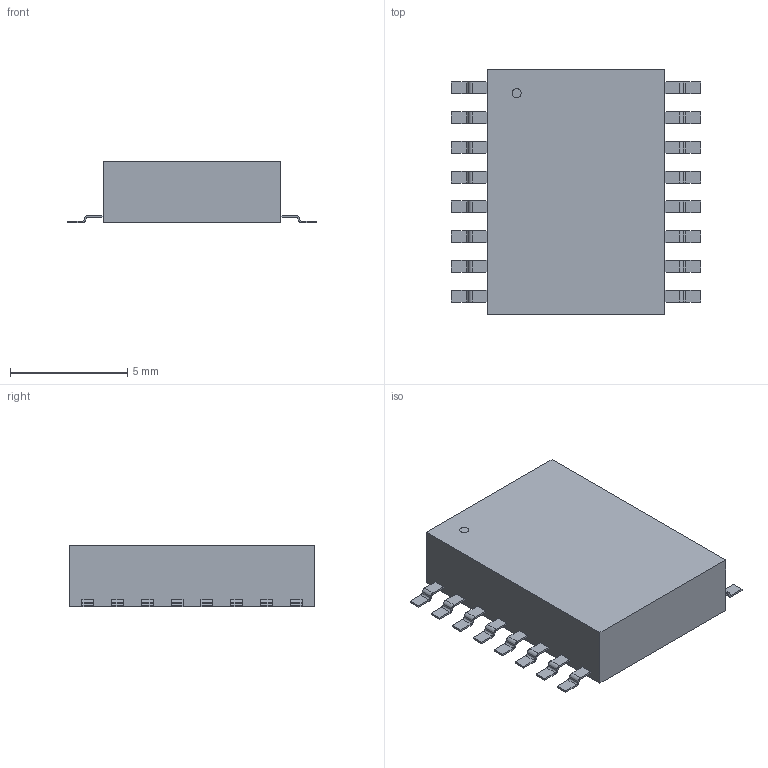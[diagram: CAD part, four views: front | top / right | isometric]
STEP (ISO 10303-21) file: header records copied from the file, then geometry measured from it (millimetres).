
FILE_DESCRIPTION(('STEP AP214'),'1');
FILE_NAME('DW16','2025-07-21T04:58:43',(''),(''),'','','');
FILE_SCHEMA(('AUTOMOTIVE_DESIGN'));
Length unit declared in the file: millimetre
Products named in the file (1): product
Bounding box: 10.64 x 10.49 x 2.64 mm (x, y, z)
Volume: 211.5 mm3; surface area: 287.5 mm2
Topology: 18 solids, 18 shells, 233 faces, 591 edges, 394 vertices
Faces by surface type: plane 168, cylinder 65
Full cylindrical faces by diameter (mm): 0.38 x1
Entity records: 6837 total; most frequent: DIRECTION 1190, ORIENTED_EDGE 1180, CARTESIAN_POINT 695, EDGE_CURVE 590, LINE 460, VECTOR 460, VERTEX_POINT 394, AXIS2_PLACEMENT_3D 365
